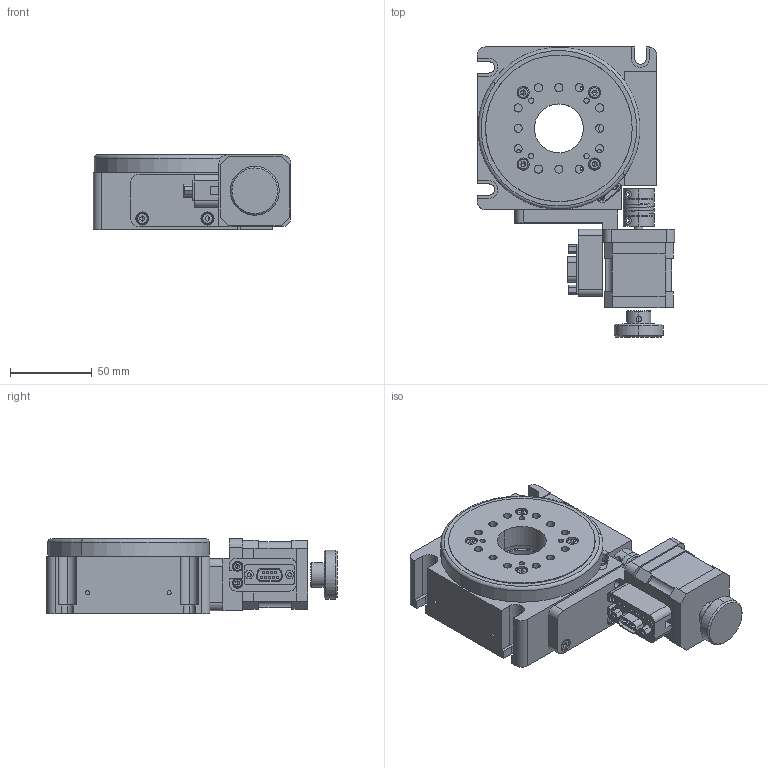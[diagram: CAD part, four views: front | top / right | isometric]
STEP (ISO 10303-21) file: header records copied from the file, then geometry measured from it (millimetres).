
FILE_DESCRIPTION (( 'STEP AP203' ), '1' );
FILE_NAME ('7SRA1100-0µç¶¯Ðý×ªÌ¨.STEP', '2017-04-06T07:54:54', ( '' ), ( '' ), 'SwSTEP 2.0', 'SolidWorks 2014', '' );
FILE_SCHEMA (( 'CONFIG_CONTROL_DESIGN' ));
Length unit declared in the file: millimetre
Products named in the file (1): 7SRA1100-0萇雄唅蛌怢
Bounding box: 121 x 178 x 46.5 mm (x, y, z)
Surface area: 88943.5 mm2 (no closed solid volume)
Topology: 0 solids, 48 shells, 566 faces, 1811 edges, 1248 vertices
Faces by surface type: plane 281, cylinder 217, cone 36, torus 30, bspline 2
Entity records: 20702 total; most frequent: CARTESIAN_POINT 4474, DIRECTION 3569, ORIENTED_EDGE 2903, EDGE_CURVE 1787, AXIS2_PLACEMENT_3D 1279, VERTEX_POINT 1248, VECTOR 1011, LINE 1011
